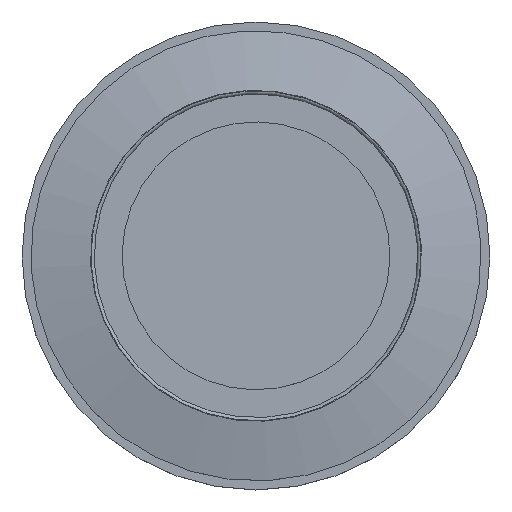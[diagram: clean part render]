
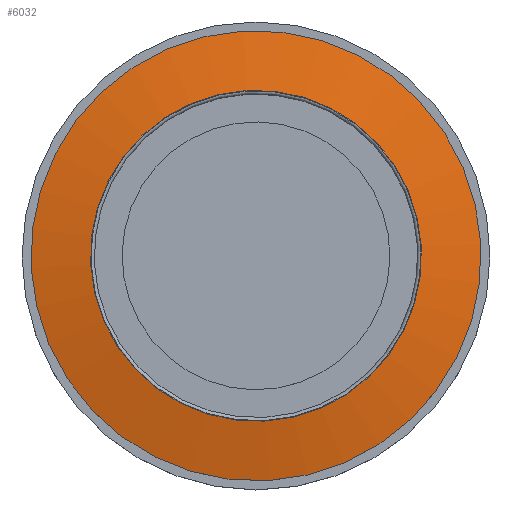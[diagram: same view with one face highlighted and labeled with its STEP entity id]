
A CAD part, top view. The second image highlights one B-rep face of the part: STEP entity #6032.
In plain terms, the highlighted conical face has half-angle 78.5 degrees and reference radius 12.105 mm.
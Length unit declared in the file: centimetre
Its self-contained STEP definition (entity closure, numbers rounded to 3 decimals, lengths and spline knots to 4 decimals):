
#39=CONICAL_SURFACE('',#6440,1.2105,1.37);
#540=FACE_OUTER_BOUND('',#869,.T.);
#869=EDGE_LOOP('',(#5130,#5131,#5132,#5133));
#1058=CIRCLE('',#6430,1.395);
#1063=CIRCLE('',#6439,1.026);
#1736=LINE('',#24186,#2061);
#2061=VECTOR('',#7505,1.2105);
#2621=VERTEX_POINT('',#24168);
#2625=VERTEX_POINT('',#24183);
#3469=EDGE_CURVE('',#2621,#2621,#1058,.T.);
#3475=EDGE_CURVE('',#2625,#2625,#1063,.T.);
#3476=EDGE_CURVE('',#2621,#2625,#1736,.T.);
#5130=ORIENTED_EDGE('',*,*,#3469,.F.);
#5131=ORIENTED_EDGE('',*,*,#3476,.T.);
#5132=ORIENTED_EDGE('',*,*,#3475,.T.);
#5133=ORIENTED_EDGE('',*,*,#3476,.F.);
#6032=ADVANCED_FACE('',(#540),#39,.T.);
#6430=AXIS2_PLACEMENT_3D('',#24170,#7482,#7483);
#6439=AXIS2_PLACEMENT_3D('',#24184,#7501,#7502);
#6440=AXIS2_PLACEMENT_3D('',#24185,#7503,#7504);
#7482=DIRECTION('center_axis',(0.,0.,
-1.));
#7483=DIRECTION('ref_axis',(0.683,-0.73,0.));
#7501=DIRECTION('center_axis',(0.,0.,
-1.));
#7502=DIRECTION('ref_axis',(0.683,-0.73,0.));
#7503=DIRECTION('center_axis',(0.,0.,
-1.));
#7504=DIRECTION('ref_axis',(0.683,-0.73,0.));
#7505=DIRECTION('',(0.67,-0.715,0.199));
#24168=CARTESIAN_POINT('',(-0.9534,1.0184,0.0799));
#24170=CARTESIAN_POINT('Origin',(0.,0.,
0.0799));
#24183=CARTESIAN_POINT('',(-0.7012,0.749,0.155));
#24184=CARTESIAN_POINT('Origin',(0.,0.,
0.155));
#24185=CARTESIAN_POINT('Origin',(0.,0.,
0.1175));
#24186=CARTESIAN_POINT('',(-0.8273,0.8837,0.1175));
